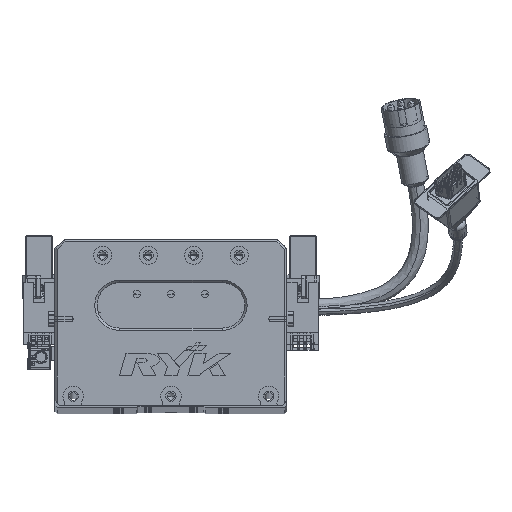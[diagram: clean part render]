
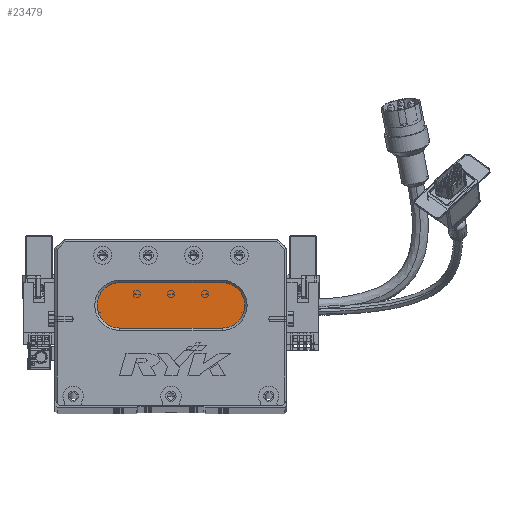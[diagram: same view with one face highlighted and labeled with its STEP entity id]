
A CAD part, top view. The second image highlights one B-rep face of the part: STEP entity #23479.
In plain terms, the highlighted planar face has unit normal (0, 0, 1) as drawn and (0, 0, -1) by its records, which use the part's own axes.
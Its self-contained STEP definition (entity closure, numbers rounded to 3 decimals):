
#2064 = CARTESIAN_POINT ( 'NONE',  ( 73.5, 44., 13. ) ) ;
#6321 = CIRCLE ( 'NONE', #57436, 10. ) ;
#6427 = AXIS2_PLACEMENT_3D ( 'NONE', #2064, #42520, #13176 ) ;
#7400 = EDGE_CURVE ( 'NONE', #15256, #10808, #6321, .T. ) ;
#10808 = VERTEX_POINT ( 'NONE', #63243 ) ;
#13176 = DIRECTION ( 'NONE',  ( -1., 0., 0. ) ) ;
#14540 = CARTESIAN_POINT ( 'NONE',  ( 73.5, 44., 13. ) ) ;
#15256 = VERTEX_POINT ( 'NONE', #38186 ) ;
#16345 = AXIS2_PLACEMENT_3D ( 'NONE', #25654, #36262, #19805 ) ;
#16819 = DIRECTION ( 'NONE',  ( 0., 0., -1. ) ) ;
#17669 = FACE_OUTER_BOUND ( 'NONE', #41143, .T. ) ;
#19805 = DIRECTION ( 'NONE',  ( -1., 0., 0. ) ) ;
#23479 = ADVANCED_FACE ( 'NONE', ( #17669 ), #32199, .T. ) ;
#25654 = CARTESIAN_POINT ( 'NONE',  ( 28.5, 44., 13. ) ) ;
#26353 = ORIENTED_EDGE ( 'NONE', *, *, #38604, .T. ) ;
#30138 = CARTESIAN_POINT ( 'NONE',  ( 73.5, 54., 13. ) ) ;
#30640 = VECTOR ( 'NONE', #33090, 1000. ) ;
#32199 = PLANE ( 'NONE',  #36113 ) ;
#33090 = DIRECTION ( 'NONE',  ( -1., 0., 0. ) ) ;
#33345 = CARTESIAN_POINT ( 'NONE',  ( 73.5, 34., 13. ) ) ;
#34855 = DIRECTION ( 'NONE',  ( 1., 0., 0. ) ) ;
#36113 = AXIS2_PLACEMENT_3D ( 'NONE', #14540, #72986, #54970 ) ;
#36262 = DIRECTION ( 'NONE',  ( 0., 0., -1. ) ) ;
#38186 = CARTESIAN_POINT ( 'NONE',  ( 28.5, 34., 13. ) ) ;
#38604 = EDGE_CURVE ( 'NONE', #48344, #55561, #68096, .T. ) ;
#38913 = EDGE_CURVE ( 'NONE', #43277, #48344, #48931, .T. ) ;
#40833 = EDGE_CURVE ( 'NONE', #10808, #43277, #55912, .T. ) ;
#41143 = EDGE_LOOP ( 'NONE', ( #26353, #63045, #65667, #42638, #60618 ) ) ;
#42520 = DIRECTION ( 'NONE',  ( 0., 0., -1. ) ) ;
#42638 = ORIENTED_EDGE ( 'NONE', *, *, #40833, .T. ) ;
#43277 = VERTEX_POINT ( 'NONE', #74463 ) ;
#44468 = VECTOR ( 'NONE', #34855, 1000. ) ;
#48344 = VERTEX_POINT ( 'NONE', #30138 ) ;
#48931 = LINE ( 'NONE', #73893, #44468 ) ;
#51173 = DIRECTION ( 'NONE',  ( -1., 0., 0. ) ) ;
#54015 = CARTESIAN_POINT ( 'NONE',  ( 73.5, 34., 13. ) ) ;
#54970 = DIRECTION ( 'NONE',  ( -1., 0., 0. ) ) ;
#55561 = VERTEX_POINT ( 'NONE', #54015 ) ;
#55912 = CIRCLE ( 'NONE', #16345, 10. ) ;
#57436 = AXIS2_PLACEMENT_3D ( 'NONE', #62599, #16819, #51173 ) ;
#60618 = ORIENTED_EDGE ( 'NONE', *, *, #38913, .T. ) ;
#62236 = EDGE_CURVE ( 'NONE', #55561, #15256, #65946, .T. ) ;
#62599 = CARTESIAN_POINT ( 'NONE',  ( 28.5, 44., 13. ) ) ;
#63045 = ORIENTED_EDGE ( 'NONE', *, *, #62236, .T. ) ;
#63243 = CARTESIAN_POINT ( 'NONE',  ( 18.5, 44., 13. ) ) ;
#65667 = ORIENTED_EDGE ( 'NONE', *, *, #7400, .T. ) ;
#65946 = LINE ( 'NONE', #33345, #30640 ) ;
#68096 = CIRCLE ( 'NONE', #6427, 10. ) ;
#72986 = DIRECTION ( 'NONE',  ( 0., 0., -1. ) ) ;
#73893 = CARTESIAN_POINT ( 'NONE',  ( 73.5, 54., 13. ) ) ;
#74463 = CARTESIAN_POINT ( 'NONE',  ( 28.5, 54., 13. ) ) ;
